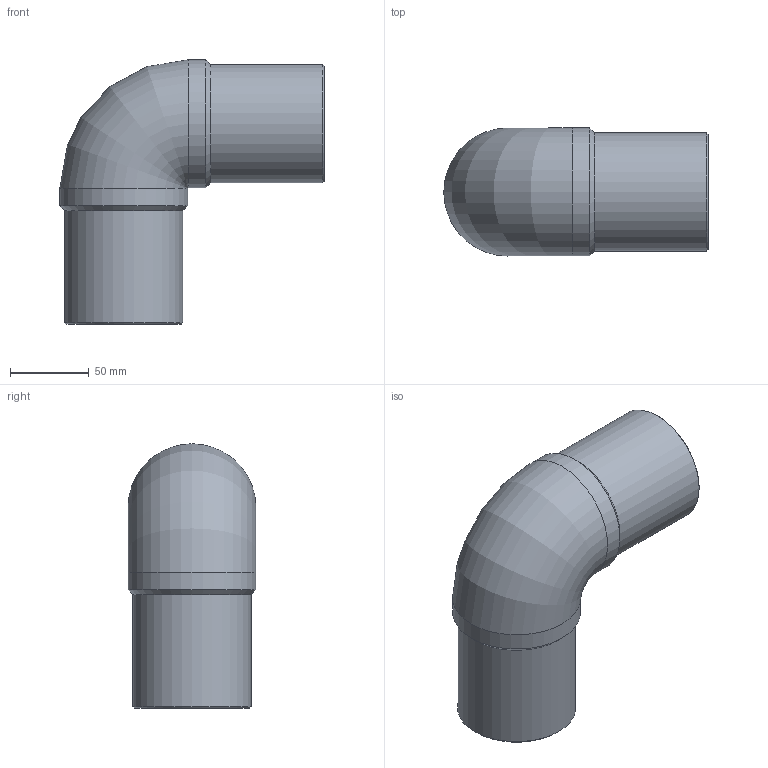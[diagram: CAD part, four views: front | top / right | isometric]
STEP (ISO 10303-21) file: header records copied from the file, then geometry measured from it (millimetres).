
FILE_DESCRIPTION(/* description */ ('Unknown'),/* implementation_level */ '2;1');
FILE_NAME(/* name */ 'G9P075G',/* time_stamp */ '2022-03-03T14:51:20+01:00',/* author */ ('Unknown'),/* organization */ ('Unknown'),/* preprocessor_version */ 'ST-DEVELOPER v18.1',/* originating_system */ 'Solid Edge',/* authorisation */ 'Unknown');
FILE_SCHEMA (('AUTOMOTIVE_DESIGN {1 0 10303 214 3 1 1}'));
Length unit declared in the file: millimetre
Products named in the file (1): G9P075G
Bounding box: 167.5 x 81 x 167.5 mm (x, y, z)
Volume: 485494.3 mm3; surface area: 104612.9 mm2
Topology: 1 solids, 1 shells, 14 faces, 34 edges, 22 vertices
Faces by surface type: cylinder 6, cone 4, plane 2, torus 2
Full cylindrical faces by diameter (mm): 58.2 x2, 75 x2, 81 x2
Entity records: 370 total; most frequent: CARTESIAN_POINT 70, DIRECTION 60, ORIENTED_EDGE 38, AXIS2_PLACEMENT_3D 30, EDGE_LOOP 27, FACE_BOUND 27, EDGE_CURVE 19, VERTEX_POINT 18
